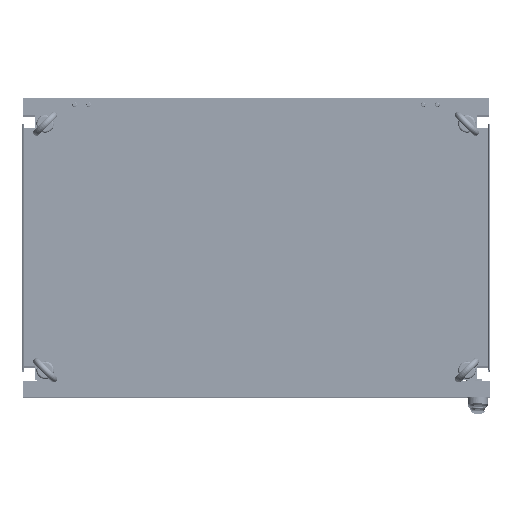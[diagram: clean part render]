
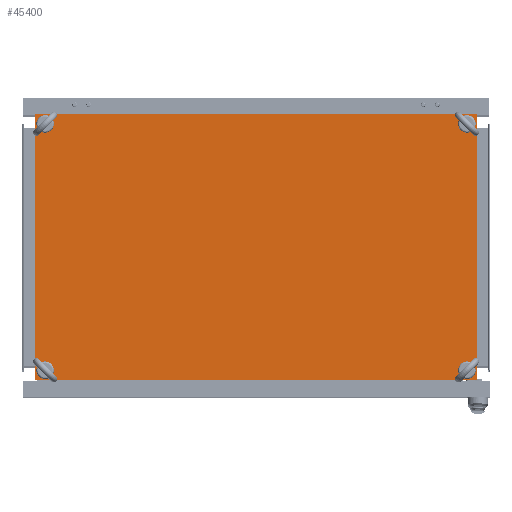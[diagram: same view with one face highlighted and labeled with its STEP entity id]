
A CAD part, top view. The second image highlights one B-rep face of the part: STEP entity #45400.
In plain terms, the highlighted planar face has unit normal (0, 0, 1).
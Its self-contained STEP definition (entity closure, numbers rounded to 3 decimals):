
#67=VERTEX_LOOP('',#32088);
#68=VERTEX_LOOP('',#32089);
#69=VERTEX_LOOP('',#32090);
#70=VERTEX_LOOP('',#32091);
#5372=LINE('',#72777,#10076);
#5373=LINE('',#72780,#10077);
#5374=LINE('',#72782,#10078);
#5375=LINE('',#72784,#10079);
#10076=VECTOR('',#59875,1000.);
#10077=VECTOR('',#59876,1000.);
#10078=VECTOR('',#59877,1000.);
#10079=VECTOR('',#59878,1000.);
#19853=ORIENTED_EDGE('',*,*,#27416,.F.);
#19854=ORIENTED_EDGE('',*,*,#27417,.F.);
#19855=ORIENTED_EDGE('',*,*,#27418,.F.);
#19856=ORIENTED_EDGE('',*,*,#27419,.F.);
#19857=ORIENTED_EDGE('',*,*,#27420,.F.);
#19858=ORIENTED_EDGE('',*,*,#27421,.F.);
#19859=ORIENTED_EDGE('',*,*,#27422,.F.);
#19860=ORIENTED_EDGE('',*,*,#27423,.F.);
#27416=EDGE_CURVE('',#32084,#32084,#33859,.T.);
#27417=EDGE_CURVE('',#32085,#32085,#33860,.T.);
#27418=EDGE_CURVE('',#32086,#32086,#33861,.T.);
#27419=EDGE_CURVE('',#32087,#32087,#33862,.T.);
#27420=EDGE_CURVE('',#32092,#32093,#5372,.T.);
#27421=EDGE_CURVE('',#32094,#32092,#5373,.T.);
#27422=EDGE_CURVE('',#32095,#32094,#5374,.T.);
#27423=EDGE_CURVE('',#32093,#32095,#5375,.T.);
#32084=VERTEX_POINT('',#72766);
#32085=VERTEX_POINT('',#72768);
#32086=VERTEX_POINT('',#72770);
#32087=VERTEX_POINT('',#72772);
#32088=VERTEX_POINT('',#72773);
#32089=VERTEX_POINT('',#72774);
#32090=VERTEX_POINT('',#72775);
#32091=VERTEX_POINT('',#72776);
#32092=VERTEX_POINT('',#72778);
#32093=VERTEX_POINT('',#72779);
#32094=VERTEX_POINT('',#72781);
#32095=VERTEX_POINT('',#72783);
#33859=CIRCLE('',#50198,6.5);
#33860=CIRCLE('',#50199,6.5);
#33861=CIRCLE('',#50200,6.5);
#33862=CIRCLE('',#50201,6.5);
#37128=EDGE_LOOP('',(#19853));
#37129=EDGE_LOOP('',(#19854));
#37130=EDGE_LOOP('',(#19855));
#37131=EDGE_LOOP('',(#19856));
#37132=EDGE_LOOP('',(#19857,#19858,#19859,#19860));
#41016=FACE_BOUND('',#37128,.T.);
#41017=FACE_BOUND('',#37129,.T.);
#41018=FACE_BOUND('',#37130,.T.);
#41019=FACE_BOUND('',#37131,.T.);
#41020=FACE_BOUND('',#67,.T.);
#41021=FACE_BOUND('',#68,.T.);
#41022=FACE_BOUND('',#69,.T.);
#41023=FACE_BOUND('',#70,.T.);
#41024=FACE_BOUND('',#37132,.T.);
#43410=PLANE('',#50197);
#45400=ADVANCED_FACE('',(#41016,#41017,#41018,#41019,#41020,#41021,#41022,
#41023,#41024),#43410,.F.);
#50197=AXIS2_PLACEMENT_3D('',#72764,#59865,#59866);
#50198=AXIS2_PLACEMENT_3D('',#72765,#59867,#59868);
#50199=AXIS2_PLACEMENT_3D('',#72767,#59869,#59870);
#50200=AXIS2_PLACEMENT_3D('',#72769,#59871,#59872);
#50201=AXIS2_PLACEMENT_3D('',#72771,#59873,#59874);
#59865=DIRECTION('',(0.,0.,-1.));
#59866=DIRECTION('',(-1.,0.,0.));
#59867=DIRECTION('',(0.,0.,1.));
#59868=DIRECTION('',(1.,0.,0.));
#59869=DIRECTION('',(0.,0.,1.));
#59870=DIRECTION('',(1.,0.,0.));
#59871=DIRECTION('',(0.,0.,1.));
#59872=DIRECTION('',(1.,0.,0.));
#59873=DIRECTION('',(0.,0.,1.));
#59874=DIRECTION('',(1.,0.,0.));
#59875=DIRECTION('',(-1.,0.,0.));
#59876=DIRECTION('',(0.,-1.,0.));
#59877=DIRECTION('',(1.,0.,0.));
#59878=DIRECTION('',(0.,1.,0.));
#72764=CARTESIAN_POINT('',(0.,0.,0.));
#72765=CARTESIAN_POINT('',(360.5,210.5,0.));
#72766=CARTESIAN_POINT('',(367.,210.5,0.));
#72767=CARTESIAN_POINT('',(-360.5,210.5,0.));
#72768=CARTESIAN_POINT('',(-354.,210.5,0.));
#72769=CARTESIAN_POINT('',(360.5,-210.5,0.));
#72770=CARTESIAN_POINT('',(367.,-210.5,0.));
#72771=CARTESIAN_POINT('',(-360.5,-210.5,0.));
#72772=CARTESIAN_POINT('',(-354.,-210.5,0.));
#72773=CARTESIAN_POINT('',(-374.2,-224.201,0.));
#72774=CARTESIAN_POINT('',(374.201,-224.201,0.));
#72775=CARTESIAN_POINT('',(374.2,224.201,0.));
#72776=CARTESIAN_POINT('',(-374.201,224.201,0.));
#72777=CARTESIAN_POINT('',(377.,-227.,0.));
#72778=CARTESIAN_POINT('',(377.,-227.,0.));
#72779=CARTESIAN_POINT('',(-377.,-227.,0.));
#72780=CARTESIAN_POINT('',(377.,227.,0.));
#72781=CARTESIAN_POINT('',(377.,227.,0.));
#72782=CARTESIAN_POINT('',(-377.,227.,0.));
#72783=CARTESIAN_POINT('',(-377.,227.,0.));
#72784=CARTESIAN_POINT('',(-377.,-227.,0.));
